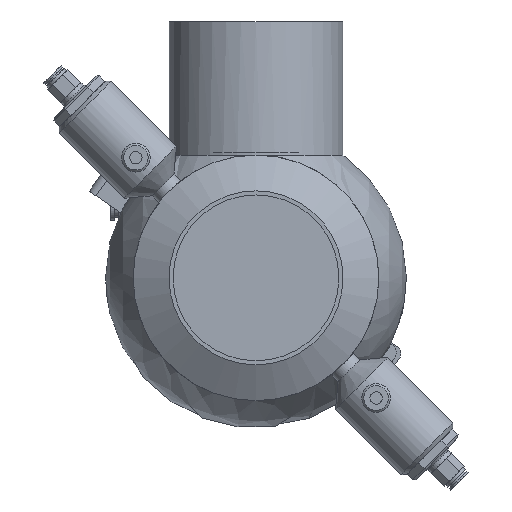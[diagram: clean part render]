
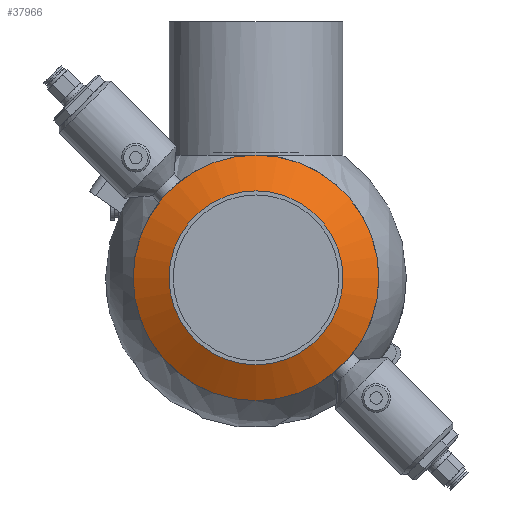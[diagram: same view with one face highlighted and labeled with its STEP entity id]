
A CAD part, front view. The second image highlights one B-rep face of the part: STEP entity #37966.
In plain terms, the highlighted conical face has half-angle 60 degrees and reference radius 60 mm.
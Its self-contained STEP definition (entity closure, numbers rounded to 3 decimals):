
#546 = DIRECTION ( 'NONE',  ( 0., 0., 1. ) ) ;
#7807 = VERTEX_POINT ( 'NONE', #27372 ) ;
#10347 = DIRECTION ( 'NONE',  ( 0., 1., 0. ) ) ;
#12242 = EDGE_CURVE ( 'NONE', #56947, #56947, #27927, .T. ) ;
#13211 = EDGE_LOOP ( 'NONE', ( #23340 ) ) ;
#16782 = EDGE_LOOP ( 'NONE', ( #38086 ) ) ;
#17470 = AXIS2_PLACEMENT_3D ( 'NONE', #24317, #43894, #546 ) ;
#20599 = CIRCLE ( 'NONE', #49365, 42.5 ) ;
#21612 = CARTESIAN_POINT ( 'NONE',  ( 0., -68.5, 60. ) ) ;
#23340 = ORIENTED_EDGE ( 'NONE', *, *, #47357, .T. ) ;
#23739 = DIRECTION ( 'NONE',  ( 0., 0., 1. ) ) ;
#24317 = CARTESIAN_POINT ( 'NONE',  ( 0., -68.5, 0. ) ) ;
#24760 = AXIS2_PLACEMENT_3D ( 'NONE', #53336, #31859, #23739 ) ;
#27372 = CARTESIAN_POINT ( 'NONE',  ( 0., -78.604, 42.5 ) ) ;
#27927 = CIRCLE ( 'NONE', #24760, 60. ) ;
#31408 = CARTESIAN_POINT ( 'NONE',  ( 0., -78.604, 0. ) ) ;
#31859 = DIRECTION ( 'NONE',  ( 0., 1., 0. ) ) ;
#37966 = ADVANCED_FACE ( 'NONE', ( #48719, #58713 ), #41058, .T. ) ;
#38086 = ORIENTED_EDGE ( 'NONE', *, *, #12242, .F. ) ;
#41058 = CONICAL_SURFACE ( 'NONE', #17470, 60., 1.047 ) ;
#43894 = DIRECTION ( 'NONE',  ( 0., 1., 0. ) ) ;
#47357 = EDGE_CURVE ( 'NONE', #7807, #7807, #20599, .T. ) ;
#48719 = FACE_BOUND ( 'NONE', #13211, .T. ) ;
#49365 = AXIS2_PLACEMENT_3D ( 'NONE', #31408, #10347, #54683 ) ;
#53336 = CARTESIAN_POINT ( 'NONE',  ( 0., -68.5, 0. ) ) ;
#54683 = DIRECTION ( 'NONE',  ( 0., 0., 1. ) ) ;
#56947 = VERTEX_POINT ( 'NONE', #21612 ) ;
#58713 = FACE_OUTER_BOUND ( 'NONE', #16782, .T. ) ;
